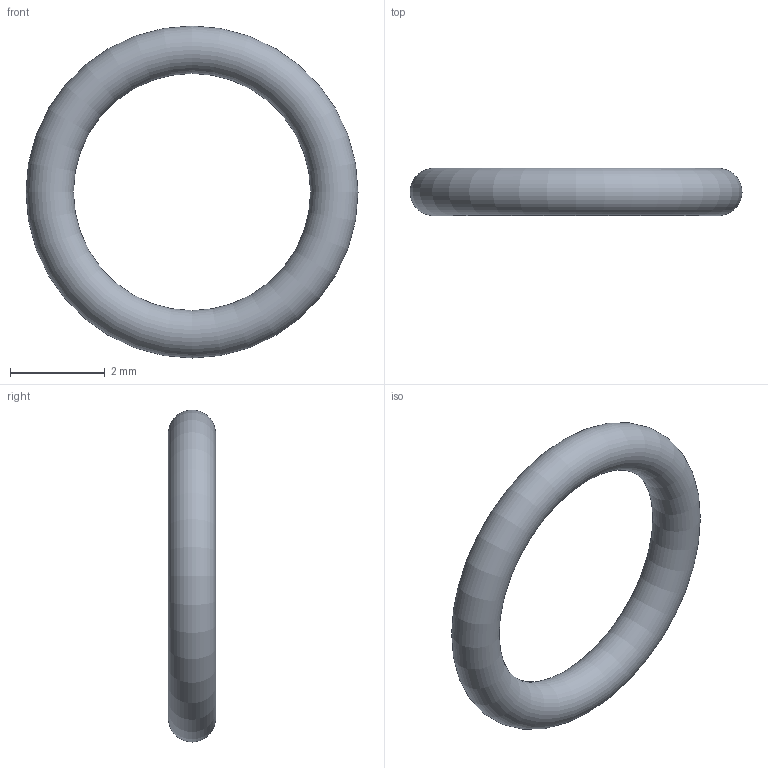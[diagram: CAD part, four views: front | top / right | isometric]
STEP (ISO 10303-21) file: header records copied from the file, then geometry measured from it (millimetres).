
FILE_DESCRIPTION( ( 'STEP AP203' ), '1' );
FILE_NAME( 'C:/Temp/Ganter_Step_05_03_2020/data/3_5/or638/O-Ring OR638-5.00-1.00-70.stp', '2020-03-12T13:44:15', ( 'License CC BY-ND 4.0' ), ( 'CADENAS' ), ' ', 'PARTsolutions', ' ' );
FILE_SCHEMA( ( 'CONFIG_CONTROL_DESIGN' ) );
Length unit declared in the file: millimetre
Products named in the file (1): _O-Ring OR638-5.00-1.00-70
Bounding box: 7 x 1 x 7 mm (x, y, z)
Volume: 14.8 mm3; surface area: 59.2 mm2
Topology: 1 solids, 1 shells, 1 faces, 2 edges, 1 vertices
Faces by surface type: torus 1
Entity records: 62 total; most frequent: CC_DESIGN_PERSON_AND_ORGANIZATION_ASSIGNMENT 5, PERSON_AND_ORGANIZATION_ROLE 4, DIRECTION 4, CARTESIAN_POINT 3, DATE_TIME_ROLE 2, CC_DESIGN_DATE_AND_TIME_ASSIGNMENT 2, AXIS2_PLACEMENT_3D 2, DIMENSIONAL_EXPONENTS 2
